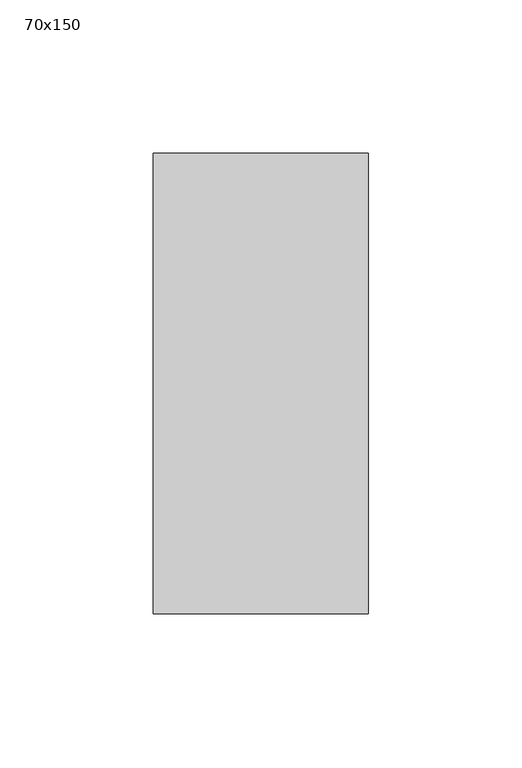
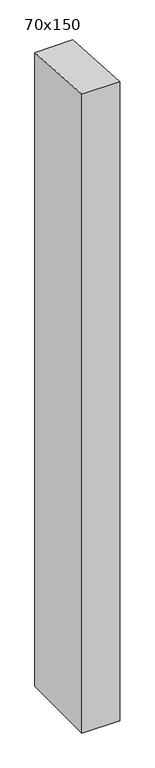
"""IFC4 building model written with IfcOpenShell, lengths in millimetres: member geometry, 長方形のマリオン : 70x150."""

import ifcopenshell
import ifcopenshell.guid

model = None  # the IFC model being written
_history = None  # IfcOwnerHistory: only IFC2X3 demands one
_inside = {}  # id of a spatial element -> (the spatial element, [elements in it])
_under = {}  # id of a project, library or spatial element -> (it, [spatial elements below it])
_declared = {}  # id of a project -> (the project, [libraries it declares])
_typed = {}  # id of a type object -> (the type object, [elements of that type])
_made_of = {}  # id of a material, layer set ... -> (it, [elements and type objects made of it])


def new_model(schema):
    """Start an empty IFC model of exactly this schema.

    Asked for "IFC4X3", IfcOpenShell would pick the latest addendum, in which some entities
    have other attributes; the version numbers below select the first issue.
    IFC2X3 requires an IfcOwnerHistory on every rooted entity: one is made here for all.
    """
    global model, _history
    if schema == "IFC4X3":
        model = ifcopenshell.file(schema_version=(4, 3, 0, 0))
    else:
        model = ifcopenshell.file(schema=schema)
    _inside.clear()
    _under.clear()
    _declared.clear()
    _typed.clear()
    _made_of.clear()
    _history = None
    if model.schema == "IFC2X3":
        org = make("IfcOrganization", Name="unknown")
        user = make(
            "IfcPersonAndOrganization",
            ThePerson=make("IfcPerson", FamilyName="unknown"),
            TheOrganization=org,
        )
        app = make(
            "IfcApplication",
            ApplicationDeveloper=org,
            Version="unknown",
            ApplicationFullName="unknown",
            ApplicationIdentifier="unknown",
        )
        _history = make(
            "IfcOwnerHistory",
            OwningUser=user,
            OwningApplication=app,
            ChangeAction="ADDED",
            CreationDate=0,
        )
    return model


def make(cls, **values):
    """One entity of the class cls with the attributes given. An attribute that is None is left unset."""
    return model.create_entity(
        cls, **{name: value for name, value in values.items() if value is not None}
    )


def rooted(cls, **values):
    """An entity with a GlobalId (a new one), such as an element, a storey or a relation."""
    return make(cls, GlobalId=ifcopenshell.guid.new(), OwnerHistory=_history, **values)


def si_unit(unit_type, name, prefix=None):
    """IfcSIUnit, for example si_unit("LENGTHUNIT", "METRE", prefix="MILLI")."""
    return make("IfcSIUnit", UnitType=unit_type, Prefix=prefix, Name=name)


def assignment(units):
    """IfcUnitAssignment: the units of a project."""
    return None if units is None else make("IfcUnitAssignment", Units=units)


def point(xyz):
    """IfcCartesianPoint."""
    return None if xyz is None else make("IfcCartesianPoint", Coordinates=xyz)


def direction(xyz):
    """IfcDirection."""
    return None if xyz is None else make("IfcDirection", DirectionRatios=xyz)


def frame(location, z_axis=None, x_axis=None):
    """IfcAxis2Placement3D, a coordinate frame: its origin and axes. An axis left out is left unset."""
    return make(
        "IfcAxis2Placement3D",
        Location=point(location),
        Axis=direction(z_axis),
        RefDirection=direction(x_axis),
    )


def origin():
    """The frame at (0, 0, 0) with its axes left unset."""
    return frame((0.0, 0.0, 0.0))


def place(relative_to, where):
    """IfcLocalPlacement: puts the frame where relative to a parent placement (None: the world)."""
    return make(
        "IfcLocalPlacement", PlacementRelTo=relative_to, RelativePlacement=where
    )


def context(
    kind, dimensions, precision=None, world=None, true_north=None, identifier=None
):
    """IfcGeometricRepresentationContext, for example the 3D "Model" context."""
    return make(
        "IfcGeometricRepresentationContext",
        ContextIdentifier=identifier,
        ContextType=kind,
        CoordinateSpaceDimension=dimensions,
        Precision=precision,
        WorldCoordinateSystem=world,
        TrueNorth=true_north,
    )


def project(units=None, contexts=None):
    """IfcProject with its units and contexts."""
    return rooted(
        "IfcProject",
        Name="project",
        RepresentationContexts=contexts,
        UnitsInContext=assignment(units),
    )


def spatial(cls, under=None, at=None, **own):
    """A site, building, storey or space (cls), placed at a placement, below another one or the project."""
    s = rooted(cls, ObjectPlacement=at, **own)
    if under is not None:
        _under.setdefault(under.id(), (under, []))[1].append(s)
    return s


def polyline(points):
    """IfcPolyline through the points."""
    return make("IfcPolyline", Points=[point(p) for p in points])


def outline(outer, holes=None, kind="AREA"):
    """IfcArbitraryClosedProfileDef: a profile drawn as a closed curve; with holes, ...WithVoids."""
    if holes is None:
        return make("IfcArbitraryClosedProfileDef", ProfileType=kind, OuterCurve=outer)
    return make(
        "IfcArbitraryProfileDefWithVoids",
        ProfileType=kind,
        OuterCurve=outer,
        InnerCurves=holes,
    )


def extrude(swept, where, along, depth):
    """IfcExtrudedAreaSolid: the profile swept, set in the frame where, extruded along a direction by depth."""
    return make(
        "IfcExtrudedAreaSolid",
        SweptArea=swept,
        Position=where,
        ExtrudedDirection=direction(along),
        Depth=depth,
    )


def shape(context_of_items, identifier, shape_type, items):
    """IfcShapeRepresentation: the items that make up one representation, for example the "Body"."""
    return make(
        "IfcShapeRepresentation",
        ContextOfItems=context_of_items,
        RepresentationIdentifier=identifier,
        RepresentationType=shape_type,
        Items=items,
    )


def source(mapping_origin, context_of_items, identifier, shape_type, items):
    """IfcRepresentationMap: a shape defined once, which mapped items show again and again."""
    return make(
        "IfcRepresentationMap",
        MappingOrigin=mapping_origin,
        MappedRepresentation=shape(context_of_items, identifier, shape_type, items),
    )


def transform(
    local_origin,
    x_axis=None,
    y_axis=None,
    z_axis=None,
    scale=None,
    scale2=None,
    scale3=None,
    uniform=True,
):
    """IfcCartesianTransformationOperator3D, or its non-uniform kind. x_axis, y_axis, z_axis: its Axis1, 2, 3."""
    if uniform:
        return make(
            "IfcCartesianTransformationOperator3D",
            Axis1=direction(x_axis),
            Axis2=direction(y_axis),
            LocalOrigin=point(local_origin),
            Scale=scale,
            Axis3=direction(z_axis),
        )
    return make(
        "IfcCartesianTransformationOperator3DnonUniform",
        Axis1=direction(x_axis),
        Axis2=direction(y_axis),
        LocalOrigin=point(local_origin),
        Scale=scale,
        Axis3=direction(z_axis),
        Scale2=scale2,
        Scale3=scale3,
    )


def mapped(mapping_source, mapping_target):
    """IfcMappedItem: shows the shape of a source again, moved by a transform."""
    return make(
        "IfcMappedItem", MappingSource=mapping_source, MappingTarget=mapping_target
    )


def made_of(thing, what):
    """Note that an element or type object is made of a material, layer set ...; save() writes the relation."""
    if what is not None:
        _made_of.setdefault(what.id(), (what, []))[1].append(thing)
    return thing


def element(
    cls,
    number,
    at=None,
    inside=None,
    cuts=None,
    type_object=None,
    material=None,
    context=None,
    identifier="Body",
    shape_type=None,
    held_by="IfcProductDefinitionShape",
    body=None,
    shapes=None,
    **own,
):
    """One element of the class cls, such as IfcWall. Its Tag is "e" and its number.

    at: its placement. inside: the storey or other place that contains it. cuts: it is an
    opening in that element (IfcRelVoidsElement). A single representation is given by context,
    identifier, shape_type and body (its items); several are given by shapes. held_by: the class
    of the entity that holds the representations. save() writes the other relations.
    """
    e = rooted(cls, Tag="e%d" % number, ObjectPlacement=at, **own)
    if body is not None:
        shapes = [shape(context, identifier, shape_type, body)]
    if shapes is not None:
        e.Representation = make(held_by, Representations=shapes)
    if inside is not None:
        _inside.setdefault(inside.id(), (inside, []))[1].append(e)
    if cuts is not None:
        rooted(
            "IfcRelVoidsElement", RelatingBuildingElement=cuts, RelatedOpeningElement=e
        )
    if type_object is not None:
        _typed.setdefault(type_object.id(), (type_object, []))[1].append(e)
    return made_of(e, material)


def aggregate(whole, parts):
    """IfcRelAggregates: a whole, such as a stair, and the parts it consists of."""
    return rooted("IfcRelAggregates", RelatingObject=whole, RelatedObjects=parts)


def save(model, path):
    """Write the relations noted so far, then the file.

    IfcRelAggregates (storeys below a building ...), IfcRelContainedInSpatialStructure (elements
    in a storey), IfcRelDefinesByType, IfcRelAssociatesMaterial and IfcRelDeclares: one each for
    every whole, place, type object, material and project.
    """
    for whole, parts in _under.values():
        aggregate(whole, parts)
    for where, things in _inside.values():
        rooted(
            "IfcRelContainedInSpatialStructure",
            RelatedElements=things,
            RelatingStructure=where,
        )
    for kind, things in _typed.values():
        rooted("IfcRelDefinesByType", RelatedObjects=things, RelatingType=kind)
    for what, things in _made_of.values():
        rooted("IfcRelAssociatesMaterial", RelatedObjects=things, RelatingMaterial=what)
    for by, libraries in _declared.values():
        rooted("IfcRelDeclares", RelatingContext=by, RelatedDefinitions=libraries)
    model.write(path)


def member_70x150_663fd2c9(model_context):
    return source(origin(), model_context, "Body", "SweptSolid", [
        extrude(outline(polyline([(-75.0, 4.9473542), (75.0, -4.9473542), (75.0, -1239.4393141), (-75.0, -1239.4393141), (-75.0, 4.9473542)])), frame((-70.0, 0.0, 0.0), z_axis=(1.0, 0.0, 0.0), x_axis=(0.0, 1.0, 0.0)), (0.0, 0.0, 1.0), 70.0),
    ])


if __name__ == "__main__":
    model = new_model("IFC4")
    model_context = context("Model", 3, world=origin())
    ifc_project = project(units=[si_unit("LENGTHUNIT", "METRE", prefix="MILLI")], contexts=[model_context])
    site = spatial("IfcSite", under=ifc_project)
    building = spatial("IfcBuilding", under=site)
    placement = place(None, origin())
    member_70x150_shape = member_70x150_663fd2c9(model_context)
    element("IfcMember", 1, ObjectType="長方形のマリオン : 70x150", at=placement, inside=building, context=model_context, shape_type="MappedRepresentation", body=[
        mapped(member_70x150_shape, transform((0.0, 0.0, 0.0), x_axis=(1.0, 0.0, 0.0), y_axis=(0.0, 1.0, 0.0), z_axis=(0.0, 0.0, 1.0))),
    ])
    save(model, "model.ifc")
